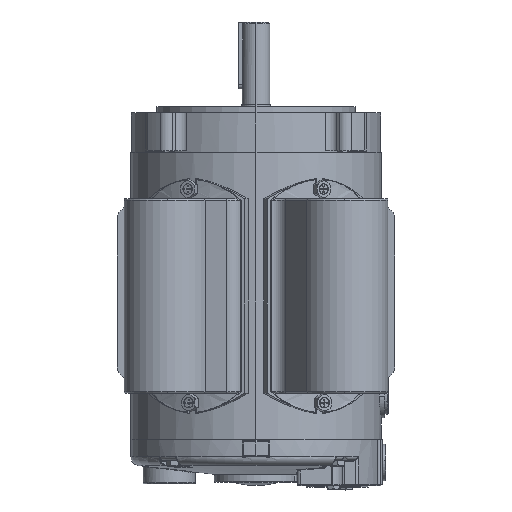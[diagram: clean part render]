
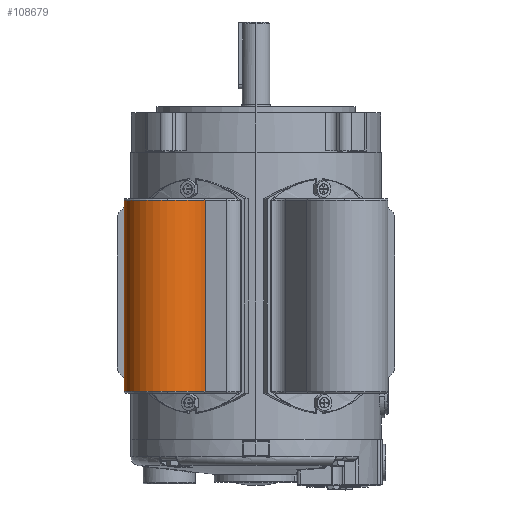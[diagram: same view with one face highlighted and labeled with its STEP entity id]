
A CAD part, top view. The second image highlights one B-rep face of the part: STEP entity #108679.
In plain terms, the highlighted cylindrical face has radius 25 mm (diameter 50 mm), a partial arc.
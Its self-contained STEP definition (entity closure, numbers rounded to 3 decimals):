
#839 = DIRECTION ( 'NONE',  ( 0., -1., 0. ) ) ;
#3519 = AXIS2_PLACEMENT_3D ( 'NONE', #76130, #113015, #30195 ) ;
#7638 = CARTESIAN_POINT ( 'NONE',  ( -72.824, -40.253, 296.67 ) ) ;
#8849 = CARTESIAN_POINT ( 'NONE',  ( -94.475, -40.253, 284.17 ) ) ;
#9298 = EDGE_CURVE ( 'NONE', #33416, #103571, #85776, .T. ) ;
#11340 = EDGE_LOOP ( 'NONE', ( #88115, #71489, #67614, #116813, #52566, #24895 ) ) ;
#11995 = DIRECTION ( 'NONE',  ( 0., 1., 0. ) ) ;
#16302 = CARTESIAN_POINT ( 'NONE',  ( -116.125, -39.253, 271.67 ) ) ;
#21764 = EDGE_CURVE ( 'NONE', #103571, #95073, #33346, .T. ) ;
#22425 = CARTESIAN_POINT ( 'NONE',  ( -94.475, -39.253, 309.17 ) ) ;
#24890 = EDGE_CURVE ( 'NONE', #37831, #95073, #74039, .T. ) ;
#24895 = ORIENTED_EDGE ( 'NONE', *, *, #21764, .T. ) ;
#28111 = DIRECTION ( 'NONE',  ( 0., 1., 0. ) ) ;
#30195 = DIRECTION ( 'NONE',  ( 0., 0., 1. ) ) ;
#32661 = CIRCLE ( 'NONE', #100238, 25. ) ;
#33346 = CIRCLE ( 'NONE', #48751, 25. ) ;
#33416 = VERTEX_POINT ( 'NONE', #107636 ) ;
#33688 = AXIS2_PLACEMENT_3D ( 'NONE', #43277, #80158, #117062 ) ;
#37712 = DIRECTION ( 'NONE',  ( 0., 0., 1. ) ) ;
#37831 = VERTEX_POINT ( 'NONE', #16302 ) ;
#38776 = CARTESIAN_POINT ( 'NONE',  ( -72.824, -39.253, 296.67 ) ) ;
#43277 = CARTESIAN_POINT ( 'NONE',  ( -94.475, 70.747, 284.17 ) ) ;
#44462 = DIRECTION ( 'NONE',  ( 0., 1., 0. ) ) ;
#45682 = DIRECTION ( 'NONE',  ( 0., 1., 0. ) ) ;
#47121 = CARTESIAN_POINT ( 'NONE',  ( -94.475, 70.747, 309.17 ) ) ;
#48751 = AXIS2_PLACEMENT_3D ( 'NONE', #83657, #839, #37712 ) ;
#48840 = DIRECTION ( 'NONE',  ( 0., 0., 1. ) ) ;
#52566 = ORIENTED_EDGE ( 'NONE', *, *, #9298, .T. ) ;
#54765 = FACE_OUTER_BOUND ( 'NONE', #11340, .T. ) ;
#55639 = CIRCLE ( 'NONE', #3519, 25. ) ;
#67614 = ORIENTED_EDGE ( 'NONE', *, *, #94385, .T. ) ;
#70983 = VERTEX_POINT ( 'NONE', #38776 ) ;
#71489 = ORIENTED_EDGE ( 'NONE', *, *, #88010, .T. ) ;
#74039 = LINE ( 'NONE', #110921, #98695 ) ;
#76130 = CARTESIAN_POINT ( 'NONE',  ( -94.475, -39.253, 284.17 ) ) ;
#76161 = VERTEX_POINT ( 'NONE', #22425 ) ;
#78244 = EDGE_CURVE ( 'NONE', #70983, #33416, #90416, .T. ) ;
#80158 = DIRECTION ( 'NONE',  ( 0., -1., 0. ) ) ;
#82581 = DIRECTION ( 'NONE',  ( -0.866, 0., -0.5 ) ) ;
#83657 = CARTESIAN_POINT ( 'NONE',  ( -94.475, 70.747, 284.17 ) ) ;
#85776 = CIRCLE ( 'NONE', #33688, 25. ) ;
#88010 = EDGE_CURVE ( 'NONE', #37831, #76161, #55639, .T. ) ;
#88115 = ORIENTED_EDGE ( 'NONE', *, *, #24890, .F. ) ;
#90416 = LINE ( 'NONE', #7638, #104131 ) ;
#91632 = CYLINDRICAL_SURFACE ( 'NONE', #103594, 25. ) ;
#94385 = EDGE_CURVE ( 'NONE', #76161, #70983, #32661, .T. ) ;
#94783 = CARTESIAN_POINT ( 'NONE',  ( -94.475, -39.253, 284.17 ) ) ;
#95073 = VERTEX_POINT ( 'NONE', #114442 ) ;
#98695 = VECTOR ( 'NONE', #28111, 1000. ) ;
#100238 = AXIS2_PLACEMENT_3D ( 'NONE', #94783, #11995, #48840 ) ;
#103571 = VERTEX_POINT ( 'NONE', #47121 ) ;
#103594 = AXIS2_PLACEMENT_3D ( 'NONE', #8849, #45682, #82581 ) ;
#104131 = VECTOR ( 'NONE', #44462, 1000. ) ;
#107636 = CARTESIAN_POINT ( 'NONE',  ( -72.824, 70.747, 296.67 ) ) ;
#108679 = ADVANCED_FACE ( 'NONE', ( #54765 ), #91632, .T. ) ;
#110921 = CARTESIAN_POINT ( 'NONE',  ( -116.125, 15.747, 271.67 ) ) ;
#113015 = DIRECTION ( 'NONE',  ( 0., 1., 0. ) ) ;
#114442 = CARTESIAN_POINT ( 'NONE',  ( -116.125, 70.747, 271.67 ) ) ;
#116813 = ORIENTED_EDGE ( 'NONE', *, *, #78244, .T. ) ;
#117062 = DIRECTION ( 'NONE',  ( 0., 0., 1. ) ) ;
